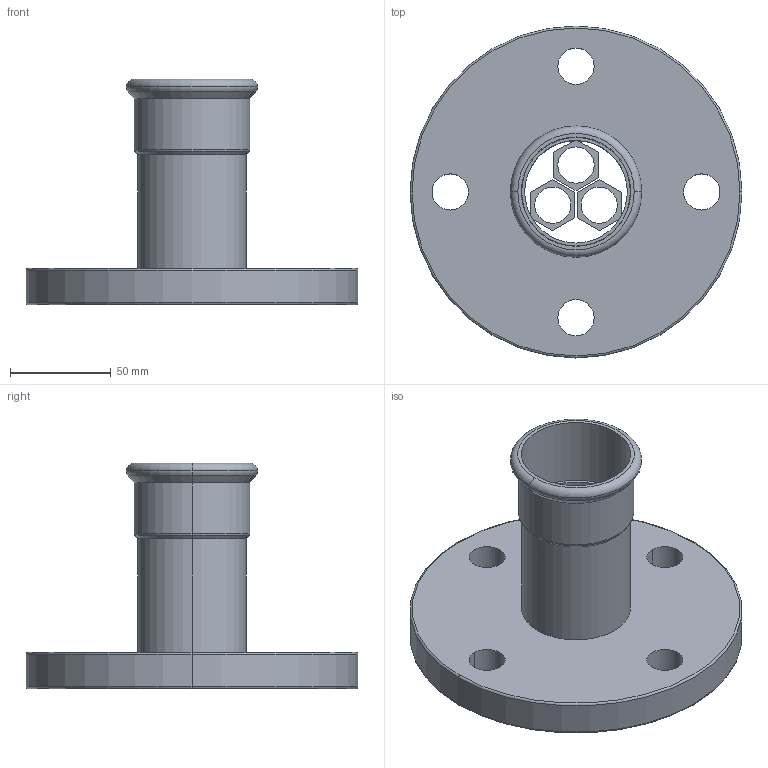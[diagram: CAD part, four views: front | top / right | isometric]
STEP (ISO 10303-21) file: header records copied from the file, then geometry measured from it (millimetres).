
FILE_DESCRIPTION(('OneSpaceDesigner STEP Export'),'2;1');
FILE_NAME('R2726 54.stp','2010-06-10T13:12:32',(''),(''),'OneSpace Designer STEP processor for AP214 (Solid Model)','OneSpace Modeling 15.00A 14-Mar-2007 (C) CoCreate Software GmbH','');
FILE_SCHEMA(('AUTOMOTIVE_DESIGN { 1 0 10303 214 1 1 1 1 }'));
Length unit declared in the file: millimetre
Products named in the file (2): R2726_54
Assembly tree (1 placements, depth 2):
  R2726_54
    R2726_54
Bounding box: 165 x 165 x 112 mm (x, y, z)
Volume: 359754.6 mm3; surface area: 87454.2 mm2
Topology: 1 solids, 1 shells, 75 faces, 186 edges, 119 vertices
Faces by surface type: plane 32, cylinder 29, torus 10, cone 4
Entity records: 1989 total; most frequent: ORIENTED_EDGE 372, CARTESIAN_POINT 315, DIRECTION 293, EDGE_CURVE 186, VERTEX_POINT 119, VECTOR 99, LINE 99, AXIS2_PLACEMENT_3D 97
